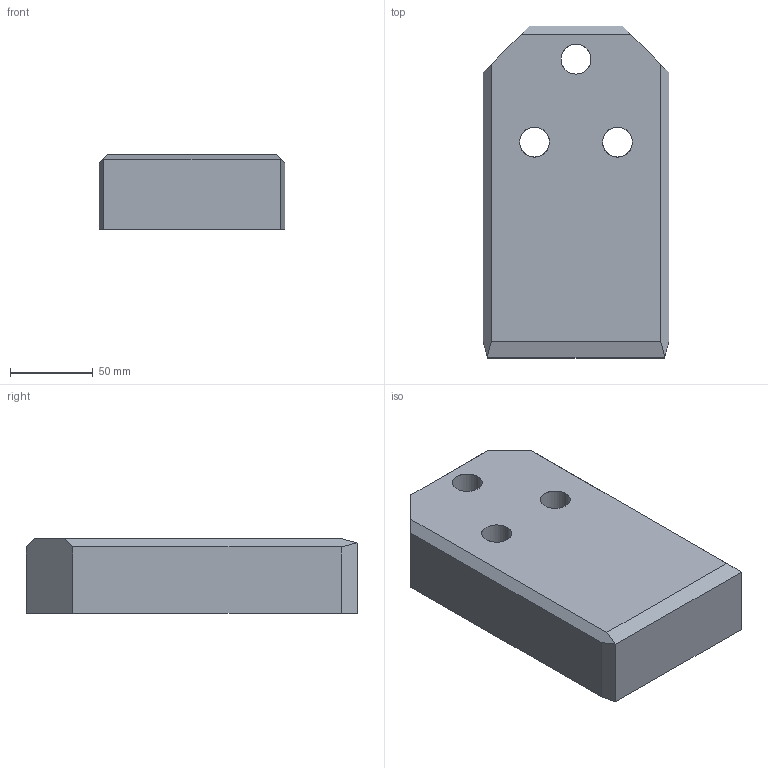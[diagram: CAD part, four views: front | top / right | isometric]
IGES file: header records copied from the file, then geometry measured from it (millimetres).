
Start section: START RECORD GO HERE.
Global section: file name: A927-112X200X45.igs; native system: DASSAULT SYSTEMES CATIA V5 R20 - www.3ds.com; preprocessor: CATIA Version 5 Release 20 ; author: Utente; organization: NB04-ASUS; date: 20200408.202351; units: millimetre
Bounding box: 112 x 200 x 45 mm (x, y, z)
Surface area: 75523.5 mm2 (no closed solid volume)
Topology: 0 solids, 0 shells, 35 faces, 168 edges, 168 vertices
Faces by surface type: revolution 18, extrusion 17
